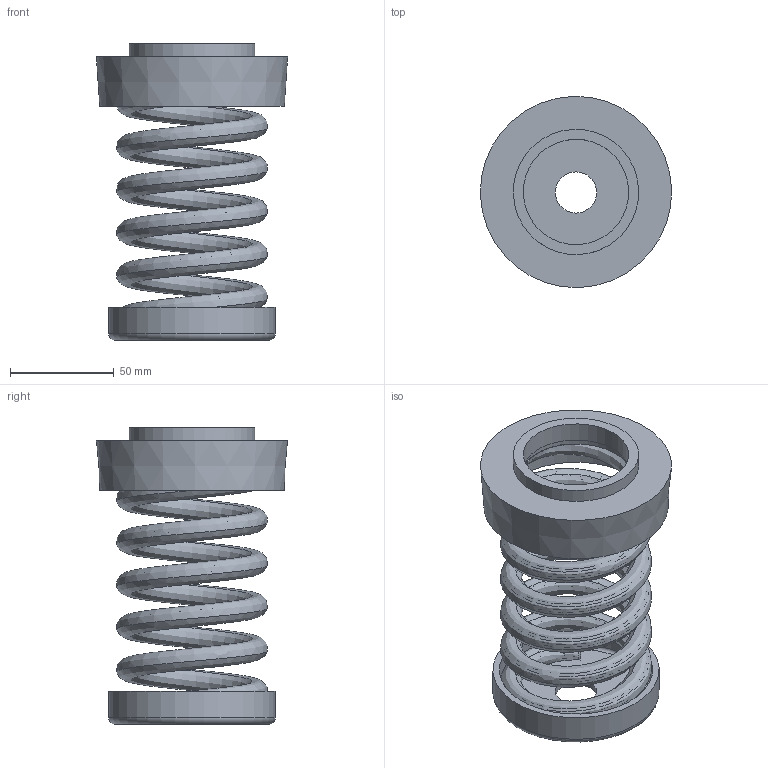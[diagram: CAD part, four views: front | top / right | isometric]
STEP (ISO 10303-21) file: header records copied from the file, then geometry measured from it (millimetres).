
FILE_DESCRIPTION(/* description */ (''),/* implementation_level */ '2;1');
FILE_NAME(/* name */ '\\Mleuckthor2\cad-proe_solids\WEBSITE FILES 05.22.13\STEP\IM\IM-C2-1870.stp',/* time_stamp */ '2016-03-05T14:04:38-05:00',/* author */ ('rramoutar'),/* organization */ ('Mason Industries Inc.'),/* preprocessor_version */ 'ST-DEVELOPER v15.6',/* originating_system */ 'Autodesk Inventor 2015',/* authorisation */ '');
FILE_SCHEMA (('CONFIG_CONTROL_DESIGN'));
Length unit declared in the file: inch
Products named in the file (1): IM-C2-1870
Bounding box: 92.02 x 92.02 x 142.83 mm (x, y, z)
Volume: 126892.2 mm3; surface area: 119849.3 mm2
Topology: 4 solids, 4 shells, 56 faces, 125 edges, 83 vertices
Faces by surface type: bspline 22, plane 18, cylinder 13, torus 2, cone 1
Full cylindrical faces by diameter (mm): 19.844 x1, 50.8 x1, 53.181 x1, 57.15 x2, 60.325 x1, 72.231 x1, 73.819 x1, 80.082 x1, 82.55 x2
Entity records: 11082 total; most frequent: CARTESIAN_POINT 9896, ORIENTED_EDGE 220, DIRECTION 164, EDGE_CURVE 110, EDGE_LOOP 84, VERTEX_POINT 82, AXIS2_PLACEMENT_3D 67, STYLED_ITEM 60
